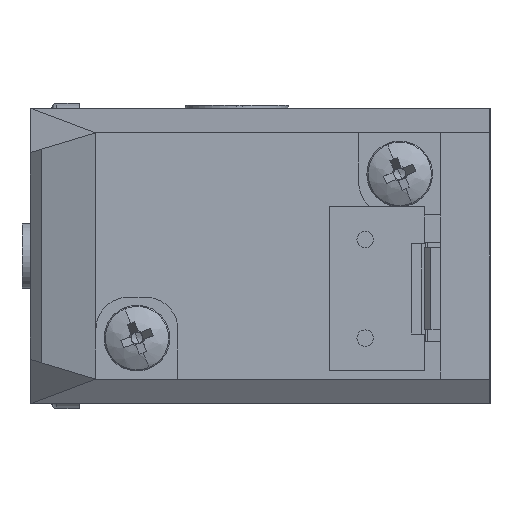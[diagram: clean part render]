
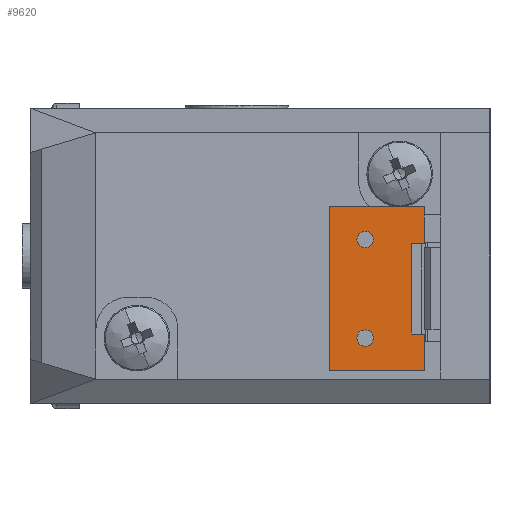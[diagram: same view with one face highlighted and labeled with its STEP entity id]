
A CAD part, left-side view. The second image highlights one B-rep face of the part: STEP entity #9620.
In plain terms, the highlighted planar face has unit normal (-1, 0, 0) as drawn and (0, 0, 1) by its records, which use the part's own axes.
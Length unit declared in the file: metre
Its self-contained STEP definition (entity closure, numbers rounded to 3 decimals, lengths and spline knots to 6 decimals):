
#9 = VECTOR ( 'NONE', #8891, 1. ) ;
#122 = AXIS2_PLACEMENT_3D ( 'NONE', #6408, #4660, #10957 ) ;
#250 = VECTOR ( 'NONE', #7572, 1. ) ;
#318 = ORIENTED_EDGE ( 'NONE', *, *, #2425, .F. ) ;
#335 = DIRECTION ( 'NONE',  ( 0., 0., 1. ) ) ;
#376 = CARTESIAN_POINT ( 'NONE',  ( 0.003, 0.008075, 0.006 ) ) ;
#377 = EDGE_CURVE ( 'NONE', #6293, #5865, #8175, .T. ) ;
#436 = DIRECTION ( 'NONE',  ( 0., -1., 0. ) ) ;
#626 = DIRECTION ( 'NONE',  ( 0., -1., 0. ) ) ;
#719 = CIRCLE ( 'NONE', #1071, 0.0005 ) ;
#752 = CIRCLE ( 'NONE', #9973, 0.0005 ) ;
#871 = VERTEX_POINT ( 'NONE', #11636 ) ;
#976 = ORIENTED_EDGE ( 'NONE', *, *, #7585, .F. ) ;
#1040 = VERTEX_POINT ( 'NONE', #3477 ) ;
#1071 = AXIS2_PLACEMENT_3D ( 'NONE', #1501, #7729, #2407 ) ;
#1200 = VERTEX_POINT ( 'NONE', #6466 ) ;
#1210 = ORIENTED_EDGE ( 'NONE', *, *, #2481, .F. ) ;
#1345 = CARTESIAN_POINT ( 'NONE',  ( 0., 0.010275, 0.006 ) ) ;
#1501 = CARTESIAN_POINT ( 'NONE',  ( -0.003, 0.008075, 0.006 ) ) ;
#1521 = EDGE_LOOP ( 'NONE', ( #318, #8232 ) ) ;
#1535 = DIRECTION ( 'NONE',  ( -1., 0., 0. ) ) ;
#1582 = DIRECTION ( 'NONE',  ( 0., -1., 0. ) ) ;
#1584 = CARTESIAN_POINT ( 'NONE',  ( -0.00275, 0.005275, 0.006 ) ) ;
#1810 = CARTESIAN_POINT ( 'NONE',  ( 0.003, 0.008075, 0.006 ) ) ;
#1893 = DIRECTION ( 'NONE',  ( 0., 0., 1. ) ) ;
#2185 = VERTEX_POINT ( 'NONE', #7850 ) ;
#2236 = VERTEX_POINT ( 'NONE', #10517 ) ;
#2342 = VERTEX_POINT ( 'NONE', #1584 ) ;
#2385 = EDGE_CURVE ( 'NONE', #1200, #7119, #752, .T. ) ;
#2407 = DIRECTION ( 'NONE',  ( 0., -1., 0. ) ) ;
#2420 = ORIENTED_EDGE ( 'NONE', *, *, #10577, .F. ) ;
#2425 = EDGE_CURVE ( 'NONE', #7119, #1200, #2869, .T. ) ;
#2481 = EDGE_CURVE ( 'NONE', #4625, #871, #11000, .T. ) ;
#2869 = CIRCLE ( 'NONE', #11207, 0.0005 ) ;
#3126 = EDGE_CURVE ( 'NONE', #1040, #2236, #7716, .T. ) ;
#3127 = LINE ( 'NONE', #7773, #10257 ) ;
#3304 = ORIENTED_EDGE ( 'NONE', *, *, #3126, .F. ) ;
#3477 = CARTESIAN_POINT ( 'NONE',  ( 0.005, 0.010275, 0.006 ) ) ;
#3547 = CARTESIAN_POINT ( 'NONE',  ( -0.005, 0.007375, 0.006 ) ) ;
#3741 = DIRECTION ( 'NONE',  ( -1., 0., 0. ) ) ;
#3772 = PLANE ( 'NONE',  #122 ) ;
#3898 = FACE_OUTER_BOUND ( 'NONE', #5966, .T. ) ;
#4180 = VECTOR ( 'NONE', #3741, 1. ) ;
#4240 = EDGE_CURVE ( 'NONE', #871, #4304, #7117, .T. ) ;
#4304 = VERTEX_POINT ( 'NONE', #4320 ) ;
#4320 = CARTESIAN_POINT ( 'NONE',  ( -0.005, 0.010275, 0.006 ) ) ;
#4337 = VECTOR ( 'NONE', #1582, 1. ) ;
#4625 = VERTEX_POINT ( 'NONE', #9017 ) ;
#4660 = DIRECTION ( 'NONE',  ( 0., 0., -1. ) ) ;
#4770 = DIRECTION ( 'NONE',  ( 0., 1., 0. ) ) ;
#4775 = LINE ( 'NONE', #5610, #9263 ) ;
#4931 = CARTESIAN_POINT ( 'NONE',  ( -0.003, 0.008575, 0.006 ) ) ;
#4970 = ORIENTED_EDGE ( 'NONE', *, *, #4240, .F. ) ;
#5112 = CARTESIAN_POINT ( 'NONE',  ( 0.005, 0.007375, 0.006 ) ) ;
#5148 = DIRECTION ( 'NONE',  ( 0., -1., 0. ) ) ;
#5358 = ORIENTED_EDGE ( 'NONE', *, *, #8775, .T. ) ;
#5610 = CARTESIAN_POINT ( 'NONE',  ( -0.00275, 0.004875, 0.006 ) ) ;
#5865 = VERTEX_POINT ( 'NONE', #7640 ) ;
#5966 = EDGE_LOOP ( 'NONE', ( #10737, #8345, #5358, #976, #3304, #2420, #4970, #1210 ) ) ;
#6229 = CARTESIAN_POINT ( 'NONE',  ( 0.00275, 0.004875, 0.006 ) ) ;
#6293 = VERTEX_POINT ( 'NONE', #4931 ) ;
#6408 = CARTESIAN_POINT ( 'NONE',  ( 0.005, 0.004475, 0.006 ) ) ;
#6466 = CARTESIAN_POINT ( 'NONE',  ( 0.003, 0.008575, 0.006 ) ) ;
#6693 = AXIS2_PLACEMENT_3D ( 'NONE', #7426, #7434, #7704 ) ;
#6823 = LINE ( 'NONE', #7228, #4180 ) ;
#7117 = LINE ( 'NONE', #3547, #9 ) ;
#7119 = VERTEX_POINT ( 'NONE', #10731 ) ;
#7228 = CARTESIAN_POINT ( 'NONE',  ( 0., 0.005275, 0.006 ) ) ;
#7354 = EDGE_CURVE ( 'NONE', #4625, #2342, #4775, .T. ) ;
#7426 = CARTESIAN_POINT ( 'NONE',  ( -0.003, 0.008075, 0.006 ) ) ;
#7434 = DIRECTION ( 'NONE',  ( 0., 0., 1. ) ) ;
#7507 = EDGE_LOOP ( 'NONE', ( #8118, #7867 ) ) ;
#7548 = EDGE_CURVE ( 'NONE', #5865, #6293, #719, .T. ) ;
#7572 = DIRECTION ( 'NONE',  ( 1., 0., 0. ) ) ;
#7585 = EDGE_CURVE ( 'NONE', #2236, #9665, #3127, .T. ) ;
#7640 = CARTESIAN_POINT ( 'NONE',  ( -0.003, 0.007575, 0.006 ) ) ;
#7704 = DIRECTION ( 'NONE',  ( 0., -1., 0. ) ) ;
#7716 = LINE ( 'NONE', #5112, #10694 ) ;
#7729 = DIRECTION ( 'NONE',  ( 0., 0., 1. ) ) ;
#7773 = CARTESIAN_POINT ( 'NONE',  ( 0., 0.004475, 0.006 ) ) ;
#7850 = CARTESIAN_POINT ( 'NONE',  ( 0.00275, 0.005275, 0.006 ) ) ;
#7867 = ORIENTED_EDGE ( 'NONE', *, *, #377, .F. ) ;
#8118 = ORIENTED_EDGE ( 'NONE', *, *, #7548, .F. ) ;
#8175 = CIRCLE ( 'NONE', #6693, 0.0005 ) ;
#8232 = ORIENTED_EDGE ( 'NONE', *, *, #2385, .F. ) ;
#8288 = CARTESIAN_POINT ( 'NONE',  ( 0.00275, 0.004475, 0.006 ) ) ;
#8313 = DIRECTION ( 'NONE',  ( -1., 0., 0. ) ) ;
#8345 = ORIENTED_EDGE ( 'NONE', *, *, #9580, .F. ) ;
#8354 = CARTESIAN_POINT ( 'NONE',  ( 0., 0.004475, 0.006 ) ) ;
#8516 = LINE ( 'NONE', #6229, #4337 ) ;
#8648 = FACE_BOUND ( 'NONE', #1521, .T. ) ;
#8775 = EDGE_CURVE ( 'NONE', #2185, #9665, #8516, .T. ) ;
#8891 = DIRECTION ( 'NONE',  ( 0., 1., 0. ) ) ;
#8934 = FACE_BOUND ( 'NONE', #7507, .T. ) ;
#9017 = CARTESIAN_POINT ( 'NONE',  ( -0.00275, 0.004475, 0.006 ) ) ;
#9263 = VECTOR ( 'NONE', #4770, 1. ) ;
#9580 = EDGE_CURVE ( 'NONE', #2185, #2342, #6823, .T. ) ;
#9620 = ADVANCED_FACE ( 'NONE', ( #8648, #8934, #3898 ), #3772, .F. ) ;
#9665 = VERTEX_POINT ( 'NONE', #8288 ) ;
#9973 = AXIS2_PLACEMENT_3D ( 'NONE', #376, #335, #436 ) ;
#10257 = VECTOR ( 'NONE', #1535, 1. ) ;
#10517 = CARTESIAN_POINT ( 'NONE',  ( 0.005, 0.004475, 0.006 ) ) ;
#10577 = EDGE_CURVE ( 'NONE', #4304, #1040, #11631, .T. ) ;
#10694 = VECTOR ( 'NONE', #5148, 1. ) ;
#10731 = CARTESIAN_POINT ( 'NONE',  ( 0.003, 0.007575, 0.006 ) ) ;
#10737 = ORIENTED_EDGE ( 'NONE', *, *, #7354, .T. ) ;
#10957 = DIRECTION ( 'NONE',  ( -1., 0., 0. ) ) ;
#11000 = LINE ( 'NONE', #8354, #11300 ) ;
#11207 = AXIS2_PLACEMENT_3D ( 'NONE', #1810, #1893, #626 ) ;
#11300 = VECTOR ( 'NONE', #8313, 1. ) ;
#11631 = LINE ( 'NONE', #1345, #250 ) ;
#11636 = CARTESIAN_POINT ( 'NONE',  ( -0.005, 0.004475, 0.006 ) ) ;
